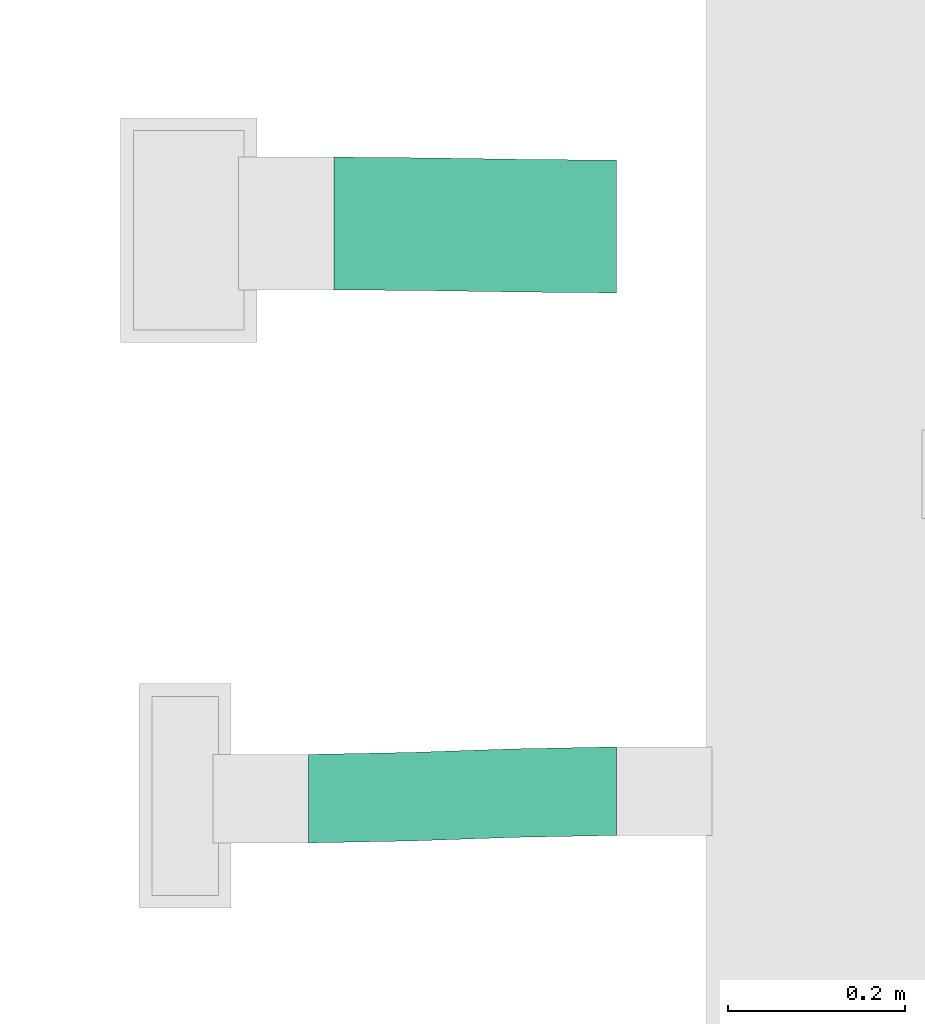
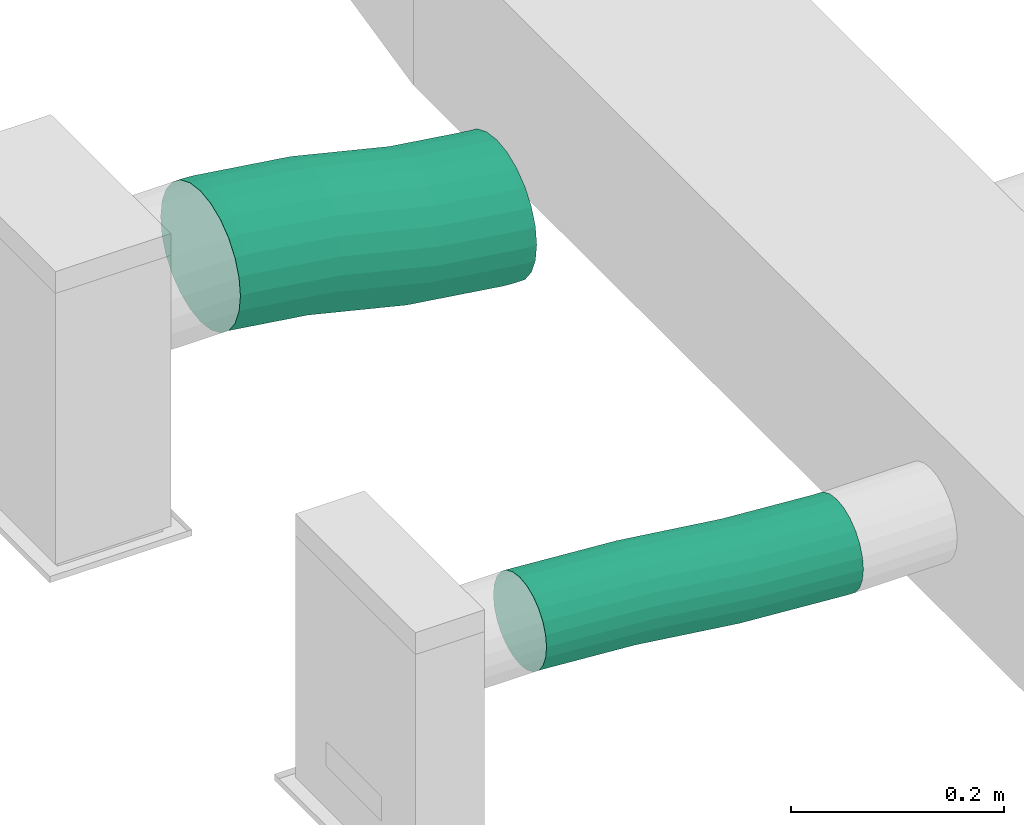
# One storey, part 54 of 60: 2 flow segments.
"""IFC2X3 building model written with IfcOpenShell, lengths in millimetres."""

from ifc_helpers import new_model, entity, si_unit, converted_unit, derived_unit, direction, frame, origin, place, context, subcontext, project, spatial, faceted_brep, type_object, element, save


model = new_model("IFC2X3")

# Units and contexts
model_context = context("Model", 3, precision=0.01, world=origin(), true_north=direction((6.123233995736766e-17, 1.0)))
body_context = subcontext(model_context, "Body", "Model", "MODEL_VIEW")
ifc_project = project(units=[si_unit("LENGTHUNIT", "METRE", prefix="MILLI"), converted_unit("PLANEANGLEUNIT", "DEGREE", entity("IfcPlaneAngleMeasure", 0.017453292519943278), si_unit("PLANEANGLEUNIT", "RADIAN"), dimensions=[0, 0, 0, 0, 0, 0, 0]), si_unit("AREAUNIT", "SQUARE_METRE"), derived_unit("THERMALTRANSMITTANCEUNIT", [(si_unit("MASSUNIT", "GRAM", prefix="KILO"), 1), (si_unit("THERMODYNAMICTEMPERATUREUNIT", "KELVIN"), -1), (si_unit("TIMEUNIT", "SECOND"), -3)])], contexts=[model_context])

# Site, building, storey
site_placement = place(None, origin())
site = spatial("IfcSite", under=ifc_project, at=site_placement, Name="Default", CompositionType="ELEMENT")
building_placement = place(site_placement, origin())
building = spatial("IfcBuilding", under=site, at=building_placement, Name="Praça Pedro II, 1301 - Centro (Sul), Teresina - PI, 64001-100", CompositionType="ELEMENT")
storey_placement = place(building_placement, frame((0.0, 0.0, 6040.0)))
storey = spatial("IfcBuildingStorey", under=building, at=storey_placement, Name="2PAV", CompositionType="ELEMENT", Elevation=6040.0)

# Flow segments
duct_segment_type = type_object("IfcDuctSegmentType", Name="Duto flexível redondo:Flexível - Redondo", PredefinedType="FLEXIBLESEGMENT")
flow_segment_1_placement = place(storey_placement, frame((9596.6017962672, -65559.13502330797, 2573.4047277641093)))
element("IfcFlowSegment", 1, at=flow_segment_1_placement, inside=storey, type_object=duct_segment_type, Name="Duto flexível redondo:Flexível - Redondo", ObjectType="Duto flexível redondo:Flexível - Redondo", context=body_context, shape_type="Brep", body=[
    faceted_brep([(0.0, 26.92660160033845, 74.65504816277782), (0.0, 15.00770490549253, 90.18805675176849), (0.0, 7.515173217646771, 108.2766283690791), (0.0, 4.9596101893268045, 127.68805675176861), (0.0, 7.515173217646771, 147.09948513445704), (0.0, 15.00770490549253, 165.18805675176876), (0.0, 26.92660160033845, 180.72106534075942), (0.0, 42.459610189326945, 192.639962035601), (0.0, 60.5481818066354, 200.13249372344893), (0.0, 79.95961018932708, 202.6880567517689), (0.0, 99.37103857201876, 200.13249372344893), (0.0, 117.45961018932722, 192.639962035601), (0.0, 132.99261877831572, 180.72106534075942), (0.0, 144.91151547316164, 165.18805675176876), (0.0, 152.40404716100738, 147.09948513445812), (0.0, 154.95961018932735, 127.68805675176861), (0.0, 152.40404716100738, 108.2766283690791), (0.0, 144.91151547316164, 90.18805675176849), (0.0, 132.99261877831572, 74.65504816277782), (0.0, 117.45961018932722, 62.73615146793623), (0.0, 99.37103857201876, 55.24361978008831), (0.0, 79.95961018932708, 52.68805675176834), (0.0, 60.5481818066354, 55.24361978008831), (0.0, 42.459610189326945, 62.73615146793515), (8.246375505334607, 152.40404716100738, 108.27662836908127), (6.989936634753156, 144.91151547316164, 90.18805675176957), (9.570279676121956, 154.95961018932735, 127.68805675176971), (5.88658729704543, 132.99261877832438, 74.65504816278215), (4.424365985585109, 99.37103857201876, 55.24361978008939), (4.165141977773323, 79.95961018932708, 52.68805675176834), (5.011518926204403, 117.45961018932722, 62.73615146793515), (4.677591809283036, 42.459610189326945, 62.73615146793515), (5.414343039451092, 26.92660160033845, 74.65504816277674), (4.251512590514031, 60.5481818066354, 55.24361978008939), (7.601277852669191, 7.515173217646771, 108.27662836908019), (8.902425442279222, 4.9596101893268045, 127.68805675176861), (6.411557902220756, 15.00770490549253, 90.18805675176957), (10.226329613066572, 7.515173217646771, 147.09948513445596), (11.482768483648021, 15.00770490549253, 165.1880567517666), (12.586117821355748, 26.926601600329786, 180.72106534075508), (13.461186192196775, 42.459610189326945, 192.639962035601), (14.048339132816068, 60.5481818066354, 200.13249372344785), (14.307563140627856, 79.95961018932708, 202.6880567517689), (14.221192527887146, 99.37103857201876, 200.13249372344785), (13.795113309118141, 117.45961018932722, 192.63996203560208), (13.058362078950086, 132.99261877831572, 180.72106534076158), (12.061147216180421, 144.91151547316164, 165.18805675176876), (10.871427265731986, 152.40404716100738, 147.09948513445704), (319.3093266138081, 4.150835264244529, 57.18384385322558), (319.3093266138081, 11.643366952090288, 39.095272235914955), (319.3093266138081, 23.56226364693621, 23.562263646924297), (319.3093266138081, 39.0952722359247, 11.643366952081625), (319.3093266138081, 57.18384385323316, 4.150835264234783), (319.3093266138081, 76.59527223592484, 1.5952722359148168), (319.3093266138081, 96.00670061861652, 4.150835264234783), (319.3093266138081, 114.09527223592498, 11.643366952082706), (319.3093266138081, 129.62828082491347, 23.562263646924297), (319.3093266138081, 141.5471775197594, 39.095272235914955), (319.3093266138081, 149.03970920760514, 57.18384385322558), (319.3093266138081, 151.5952722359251, 76.59527223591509), (319.3093266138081, 149.03970920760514, 96.00670061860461), (319.3093266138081, 141.5471775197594, 114.09527223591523), (319.3093266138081, 129.62828082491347, 129.6282808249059), (319.3093266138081, 114.09527223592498, 141.54717751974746), (319.3093266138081, 96.00670061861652, 149.0397092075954), (319.3093266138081, 76.59527223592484, 151.59527223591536), (319.3093266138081, 57.18384385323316, 149.0397092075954), (319.3093266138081, 39.0952722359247, 141.54717751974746), (319.3093266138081, 23.56226364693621, 129.6282808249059), (319.3093266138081, 11.643366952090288, 114.09527223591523), (319.3093266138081, 4.150835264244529, 96.00670061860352), (319.3093266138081, 1.5952722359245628, 76.59527223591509), (104.09011050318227, 151.5466482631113, 95.25567216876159), (100.72873381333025, 144.0729469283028, 77.45306919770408), (107.63197849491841, 154.08236983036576, 114.36577663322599), (97.77692069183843, 132.17058622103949, 62.17118569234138), (95.4358323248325, 116.65069235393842, 50.451456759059), (93.86501001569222, 98.57092044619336, 43.092562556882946), (93.17150270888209, 79.1633770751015, 40.595999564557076), (93.40257178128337, 59.75065424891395, 43.13190442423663), (94.54247025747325, 41.655696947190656, 50.52745941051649), (96.5135159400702, 26.111646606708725, 62.278669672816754), (102.36426751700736, 6.667442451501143, 95.40249801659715), (105.84525436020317, 4.0923790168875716, 114.51778193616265), (99.181385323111, 14.17780457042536, 77.58470965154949), (109.38712235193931, 6.628100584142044, 133.62788640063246), (112.74849904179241, 14.1018019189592, 151.43048937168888), (115.70031216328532, 26.004162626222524, 166.7123728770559), (118.04140053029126, 41.52405649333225, 178.43210181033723), (119.61222283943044, 59.60382840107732, 185.79099601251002), (120.30573014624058, 79.01137177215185, 188.28755900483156), (120.07466107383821, 98.42409459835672, 185.75165414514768), (118.93476259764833, 116.51905190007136, 178.35609915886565), (116.9637169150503, 132.0631022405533, 166.60488889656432), (114.2958475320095, 143.99694427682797, 151.29884891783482), (111.11296533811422, 151.5073063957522, 133.4810605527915), (213.46407225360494, 152.46250340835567, 89.76554705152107), (209.92220426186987, 149.92678184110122, 70.65544258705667), (206.56082757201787, 142.4530805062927, 52.85283961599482), (203.60901445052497, 130.5507197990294, 37.570956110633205), (201.26792608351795, 115.03082593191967, 25.851227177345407), (199.69710377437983, 96.95105402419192, 18.492332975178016), (199.0035964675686, 77.5435106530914, 15.995769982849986), (199.2346655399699, 58.13078782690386, 18.531674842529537), (200.37456401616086, 40.035830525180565, 25.927229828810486), (202.34560969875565, 24.491780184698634, 37.67844009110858), (205.01347908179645, 12.55793814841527, 52.98448006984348), (208.1963612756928, 5.047576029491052, 70.8022684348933), (211.6773481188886, 2.47251259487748, 89.91755235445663), (215.21921611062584, 5.008234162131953, 109.02765681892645), (218.58059280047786, 12.48193549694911, 126.83025978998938), (221.53240592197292, 24.384296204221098, 142.112143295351), (223.87349428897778, 39.904190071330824, 153.83187222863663), (225.44431659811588, 57.98396197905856, 161.1907664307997), (226.1378239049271, 77.39150535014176, 163.68732942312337), (225.90675483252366, 96.80422817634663, 161.1514245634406), (224.76685635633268, 114.89918547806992, 153.75586957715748), (222.79581067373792, 130.44323581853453, 142.00465931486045), (216.94505909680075, 149.88743997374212, 108.88083097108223), (220.1279412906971, 142.37707785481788, 126.69861933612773), (310.40690117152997, 151.5952722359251, 76.59527223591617), (309.08299700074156, 149.03970920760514, 57.18384385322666), (307.8265581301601, 141.5471775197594, 39.095272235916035), (306.72320879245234, 129.62828082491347, 23.56226364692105), (305.8481404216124, 114.09527223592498, 11.643366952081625), (305.260987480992, 96.00670061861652, 4.150835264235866), (305.00176347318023, 76.59527223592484, 1.5952722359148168), (305.08813408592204, 57.18384385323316, 4.150835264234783), (305.51421330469, 39.0952722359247, 11.643366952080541), (306.25096453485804, 23.56226364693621, 23.56226364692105), (307.24817939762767, 11.643366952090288, 39.095272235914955), (308.4378993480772, 4.150835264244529, 57.18384385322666), (309.73904693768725, 1.5952722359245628, 76.59527223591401), (311.0629511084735, 4.150835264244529, 96.00670061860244), (312.31938997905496, 11.643366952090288, 114.09527223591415), (313.42273931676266, 23.56226364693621, 129.62828082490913), (314.29780768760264, 39.0952722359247, 141.54717751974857), (314.884960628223, 57.18384385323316, 149.0397092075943), (315.14418463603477, 76.59527223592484, 151.59527223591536), (315.0578140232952, 96.00670061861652, 149.0397092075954), (314.6317348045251, 114.09527223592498, 141.54717751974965), (313.894983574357, 129.62828082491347, 129.6282808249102), (311.70804876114, 149.03970920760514, 96.00670061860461), (312.89776871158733, 141.5471775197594, 114.09527223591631)], [[[0, 1, 2, 3, 4, 5, 6, 7, 8, 9, 10, 11, 12, 13, 14, 15, 16, 17, 18, 19, 20, 21, 22, 23]], [[24, 25, 17, 16]], [[26, 24, 16, 15]], [[17, 25, 27, 18]], [[28, 29, 21, 20]], [[30, 28, 20, 19]], [[18, 27, 30, 19]], [[23, 31, 32, 0]], [[33, 31, 23, 22]], [[21, 29, 33, 22]], [[34, 35, 3, 2]], [[36, 34, 2, 1]], [[32, 36, 1, 0]], [[5, 4, 37, 38]], [[6, 5, 38, 39]], [[3, 35, 37, 4]], [[8, 7, 40, 41]], [[9, 8, 41, 42]], [[39, 40, 7, 6]], [[9, 42, 43, 10]], [[10, 43, 44, 11]], [[11, 44, 45, 12]], [[13, 46, 47, 14]], [[14, 47, 26, 15]], [[12, 45, 46, 13]], [[48, 49, 50, 51, 52, 53, 54, 55, 56, 57, 58, 59, 60, 61, 62, 63, 64, 65, 66, 67, 68, 69, 70, 71]], [[72, 73, 25, 24]], [[74, 72, 24, 26]], [[27, 25, 73, 75]], [[76, 77, 28, 30]], [[75, 76, 30, 27]], [[29, 28, 77, 78]], [[79, 80, 31, 33]], [[78, 79, 33, 29]], [[81, 32, 31, 80]], [[82, 83, 35, 34]], [[84, 82, 34, 36]], [[84, 36, 32, 81]], [[35, 83, 85, 37]], [[37, 85, 86, 38]], [[87, 39, 38, 86]], [[40, 88, 89, 41]], [[41, 89, 90, 42]], [[88, 40, 39, 87]], [[43, 42, 90, 91]], [[44, 43, 91, 92]], [[92, 93, 45, 44]], [[46, 45, 93, 94]], [[47, 46, 94, 95]], [[26, 47, 95, 74]], [[72, 74, 96, 97]], [[73, 72, 97, 98]], [[75, 73, 98, 99]], [[77, 76, 100, 101]], [[78, 77, 101, 102]], [[99, 100, 76, 75]], [[78, 102, 103, 79]], [[79, 103, 104, 80]], [[105, 81, 80, 104]], [[81, 105, 106, 84]], [[84, 106, 107, 82]], [[108, 83, 82, 107]], [[109, 110, 86, 85]], [[108, 109, 85, 83]], [[111, 87, 86, 110]], [[112, 113, 89, 88]], [[112, 88, 87, 111]], [[114, 90, 89, 113]], [[115, 116, 92, 91]], [[114, 115, 91, 90]], [[116, 117, 93, 92]], [[118, 96, 74, 95]], [[119, 118, 95, 94]], [[117, 119, 94, 93]], [[97, 96, 120, 121]], [[98, 97, 121, 122]], [[99, 98, 122, 123]], [[101, 100, 124, 125]], [[102, 101, 125, 126]], [[123, 124, 100, 99]], [[102, 126, 127, 103]], [[103, 127, 128, 104]], [[104, 128, 129, 105]], [[105, 129, 130, 106]], [[106, 130, 131, 107]], [[132, 108, 107, 131]], [[133, 134, 110, 109]], [[132, 133, 109, 108]], [[135, 111, 110, 134]], [[136, 137, 113, 112]], [[136, 112, 111, 135]], [[138, 114, 113, 137]], [[139, 140, 116, 115]], [[138, 139, 115, 114]], [[117, 116, 140, 141]], [[142, 120, 96, 118]], [[143, 142, 118, 119]], [[141, 143, 119, 117]], [[120, 59, 58, 121]], [[121, 58, 57, 122]], [[122, 57, 56, 123]], [[124, 55, 54, 125]], [[125, 54, 53, 126]], [[123, 56, 55, 124]], [[127, 126, 53, 52]], [[128, 127, 52, 51]], [[129, 128, 51, 50]], [[131, 130, 49, 48]], [[132, 131, 48, 71]], [[50, 49, 130, 129]], [[133, 132, 71, 70]], [[134, 133, 70, 69]], [[135, 134, 69, 68]], [[137, 136, 67, 66]], [[138, 137, 66, 65]], [[135, 68, 67, 136]], [[138, 65, 64, 139]], [[139, 64, 63, 140]], [[140, 63, 62, 141]], [[143, 61, 60, 142]], [[142, 60, 59, 120]], [[143, 141, 62, 61]]]),
])
flow_segment_2_placement = place(storey_placement, frame((9567.60542845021, -66180.76441159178, 2598.404727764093)))
element("IfcFlowSegment", 2, at=flow_segment_2_placement, inside=storey, type_object=duct_segment_type, Name="Duto flexível redondo:Flexível - Redondo", ObjectType="Duto flexível redondo:Flexível - Redondo", context=body_context, shape_type="Brep", body=[
    faceted_brep([(0.0, 8.29400204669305, 64.1423838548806), (0.0, 3.298980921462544, 76.201431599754), (0.0, 1.5952722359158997, 89.14238385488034), (0.0, 3.298980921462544, 102.08333611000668), (0.0, 8.29400204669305, 114.14238385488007), (0.0, 16.239933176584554, 124.4977229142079), (0.0, 26.595272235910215, 132.44365404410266), (0.0, 38.654319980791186, 137.43867516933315), (0.0, 51.59527223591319, 139.1423838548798), (0.0, 64.53622449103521, 137.43867516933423), (0.0, 76.59527223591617, 132.44365404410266), (0.0, 86.95061129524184, 124.4977229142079), (0.0, 94.89654242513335, 114.14238385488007), (0.0, 99.89156355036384, 102.08333611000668), (0.0, 101.59527223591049, 89.14238385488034), (0.0, 99.89156355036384, 76.201431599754), (0.0, 94.89654242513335, 64.1423838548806), (0.0, 86.95061129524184, 53.78704479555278), (0.0, 76.59527223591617, 45.84111366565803), (0.0, 64.53622449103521, 40.84609254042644), (0.0, 51.59527223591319, 39.142383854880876), (0.0, 38.654319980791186, 40.84609254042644), (0.0, 26.595272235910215, 45.84111366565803), (0.0, 16.239933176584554, 53.78704479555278), (3.1442877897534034, 99.89156355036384, 76.201431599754), (2.669881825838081, 94.89654242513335, 64.14238385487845), (3.6886774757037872, 101.59527223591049, 89.14238385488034), (2.297789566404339, 86.95061129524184, 53.78704479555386), (1.9532754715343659, 64.53622449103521, 40.84609254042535), (2.004331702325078, 51.59527223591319, 39.142383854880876), (2.053368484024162, 76.59527223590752, 45.84111366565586), (2.535910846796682, 26.595272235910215, 45.841113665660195), (2.9802075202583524, 16.239933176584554, 53.78704479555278), (2.203057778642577, 38.654319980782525, 40.84609254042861), (4.076488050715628, 3.298980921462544, 76.201431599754), (4.653762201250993, 1.5952722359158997, 89.14238385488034), (3.5056697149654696, 8.29400204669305, 64.14238385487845), (5.1981518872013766, 3.298980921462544, 102.08333611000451), (5.672557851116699, 8.29400204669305, 114.14238385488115), (6.0446501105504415, 16.239933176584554, 124.49772291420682), (6.289071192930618, 26.59527223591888, 132.44365404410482), (6.389164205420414, 38.654319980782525, 137.43867516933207), (6.338107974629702, 51.59527223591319, 139.1423838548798), (6.1393818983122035, 64.53622449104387, 137.43867516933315), (5.806528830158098, 76.59527223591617, 132.4436540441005), (5.362232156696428, 86.95061129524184, 124.4977229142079), (4.836769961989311, 94.89654242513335, 114.14238385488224), (4.265951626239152, 99.89156355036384, 102.08333611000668), (348.3056944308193, 47.01565236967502, 3.298980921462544), (348.3056944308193, 59.95660462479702, 1.5952722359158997), (348.3056944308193, 72.89755687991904, 3.298980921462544), (348.3056944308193, 84.95660462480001, 8.294002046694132), (348.3056944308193, 95.31194368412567, 16.239933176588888), (348.3056944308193, 103.25787481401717, 26.595272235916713), (348.3056944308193, 108.25289593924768, 38.6543199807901), (348.3056944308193, 109.95660462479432, 51.59527223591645), (348.3056944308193, 108.25289593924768, 64.53622449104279), (348.3056944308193, 103.25787481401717, 76.59527223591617), (348.3056944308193, 95.31194368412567, 86.950611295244), (348.3056944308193, 84.95660462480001, 94.89654242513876), (348.3056944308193, 72.89755687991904, 99.89156355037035), (348.3056944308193, 59.95660462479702, 101.595272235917), (348.3056944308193, 47.01565236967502, 99.89156355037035), (348.3056944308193, 34.956604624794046, 94.89654242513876), (348.3056944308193, 24.601265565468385, 86.950611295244), (348.3056944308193, 16.65533443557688, 76.59527223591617), (348.3056944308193, 11.660313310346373, 64.53622449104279), (348.3056944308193, 9.956604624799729, 51.59527223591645), (348.3056944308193, 11.660313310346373, 38.6543199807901), (348.3056944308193, 16.65533443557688, 26.595272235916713), (348.3056944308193, 24.601265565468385, 16.239933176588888), (348.3056944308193, 34.956604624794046, 8.294002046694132), (113.40373756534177, 102.02396136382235, 66.62575932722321), (112.08481690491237, 97.0126074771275, 54.64005491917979), (114.9172236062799, 103.7464121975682, 79.48254873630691), (111.05034388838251, 89.05386602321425, 44.34224146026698), (110.37081614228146, 78.69011207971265, 36.43409791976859), (110.09254235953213, 66.62761835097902, 31.454551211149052), (110.2344864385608, 53.68842385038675, 29.742949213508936), (110.78697512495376, 40.754313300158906, 31.415934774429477), (111.71235722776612, 28.706724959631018, 36.35949669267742), (112.9475694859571, 18.36668206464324, 44.236739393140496), (115.99539592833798, 5.463472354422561, 66.48164082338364), (117.6003057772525, 3.7796379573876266, 79.33334628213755), (114.40843422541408, 10.43884145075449, 54.51084180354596), (119.11379181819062, 5.502088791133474, 92.190135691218), (120.43271247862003, 10.513442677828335, 104.175840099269), (121.46718549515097, 18.472184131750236, 114.47365355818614), (122.14671324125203, 28.83593807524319, 122.38179709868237), (122.42498702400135, 40.89843180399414, 127.36134380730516), (122.28304294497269, 53.837626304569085, 129.07294580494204), (121.73055425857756, 66.77173685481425, 127.39996024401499), (120.80517215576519, 78.81932519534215, 122.4563983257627), (119.56995989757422, 89.15936809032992, 114.5791556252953), (118.10909515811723, 97.08720870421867, 104.30505321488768), (116.52213345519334, 102.06257780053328, 92.33425419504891), (230.70538865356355, 107.77223890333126, 61.404309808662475), (229.19190261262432, 106.0497880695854, 48.54752039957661), (227.872981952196, 101.03843418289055, 36.56181599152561), (226.83850893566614, 93.07969272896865, 26.264002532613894), (226.158981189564, 82.7159387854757, 18.35585899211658), (225.88070740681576, 70.6534450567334, 13.376312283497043), (226.02265148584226, 57.71425055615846, 11.664710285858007), (226.57514017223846, 44.78014000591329, 13.337695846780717), (227.50052227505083, 32.73255166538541, 18.281257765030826), (228.73573453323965, 22.392508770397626, 26.158500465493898), (230.1965992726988, 14.464668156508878, 36.4326028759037), (231.7835609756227, 9.489299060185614, 48.40340189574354), (233.38847082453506, 7.805464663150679, 61.25510735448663), (234.90195686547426, 9.527915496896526, 74.11189676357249), (236.22087752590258, 14.539269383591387, 86.09760117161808), (237.25535054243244, 22.498010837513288, 96.39541463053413), (237.93487828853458, 32.861764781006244, 104.30355817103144), (238.21315207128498, 44.924258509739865, 109.28310487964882), (238.07120799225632, 57.863453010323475, 110.99470687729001), (237.51871930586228, 70.79756356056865, 109.3217213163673), (236.5933372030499, 82.84515190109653, 104.37815939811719), (235.35812494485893, 93.1851947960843, 96.5009166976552), (232.31029850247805, 106.08840450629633, 74.25601526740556), (233.89726020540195, 101.11303540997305, 86.2268142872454), (343.6519322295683, 109.95660462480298, 51.59527223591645), (343.10754254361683, 108.25289593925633, 38.65431998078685), (342.6331365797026, 103.25787481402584, 26.595272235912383), (342.26104432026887, 95.31194368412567, 16.239933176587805), (342.01662323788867, 84.95660462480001, 8.294002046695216), (341.91653022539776, 72.89755687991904, 3.298980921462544), (341.96758645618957, 59.95660462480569, 1.5952722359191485), (342.16631253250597, 47.01565236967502, 3.2989809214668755), (342.4991656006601, 34.956604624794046, 8.294002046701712), (342.94346227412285, 24.601265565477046, 16.239933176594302), (343.4689244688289, 16.65533443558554, 26.59527223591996), (344.039742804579, 11.660313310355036, 38.654319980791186), (344.6170169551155, 9.956604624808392, 51.595272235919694), (345.1614066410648, 11.660313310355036, 64.53622449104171), (345.6358126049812, 16.65533443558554, 76.59527223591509), (346.00790486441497, 24.601265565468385, 86.95061129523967), (346.2523259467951, 34.956604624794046, 94.89654242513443), (346.35241895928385, 47.01565236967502, 99.89156355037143), (346.3013627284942, 59.95660462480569, 101.59527223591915), (346.10263665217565, 72.89755687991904, 99.89156355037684), (345.7697835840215, 84.95660462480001, 94.89654242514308), (345.3254869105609, 95.31194368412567, 86.9506112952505), (344.2292063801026, 108.25289593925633, 64.5362244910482), (344.8000247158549, 103.25787481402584, 76.59527223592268)], [[[0, 1, 2, 3, 4, 5, 6, 7, 8, 9, 10, 11, 12, 13, 14, 15, 16, 17, 18, 19, 20, 21, 22, 23]], [[24, 25, 16, 15]], [[26, 24, 15, 14]], [[16, 25, 27, 17]], [[28, 29, 20, 19]], [[30, 28, 19, 18]], [[17, 27, 30, 18]], [[22, 31, 32, 23]], [[33, 31, 22, 21]], [[20, 29, 33, 21]], [[34, 35, 2, 1]], [[36, 34, 1, 0]], [[32, 36, 0, 23]], [[4, 3, 37, 38]], [[5, 4, 38, 39]], [[2, 35, 37, 3]], [[7, 6, 40, 41]], [[7, 41, 42, 8]], [[39, 40, 6, 5]], [[8, 42, 43, 9]], [[9, 43, 44, 10]], [[10, 44, 45, 11]], [[12, 46, 47, 13]], [[13, 47, 26, 14]], [[11, 45, 46, 12]], [[48, 49, 50, 51, 52, 53, 54, 55, 56, 57, 58, 59, 60, 61, 62, 63, 64, 65, 66, 67, 68, 69, 70, 71]], [[72, 73, 25, 24]], [[74, 72, 24, 26]], [[27, 25, 73, 75]], [[75, 76, 30, 27]], [[30, 76, 77, 28]], [[78, 29, 28, 77]], [[79, 80, 31, 33]], [[78, 79, 33, 29]], [[81, 32, 31, 80]], [[82, 83, 35, 34]], [[84, 82, 34, 36]], [[84, 36, 32, 81]], [[35, 83, 85, 37]], [[37, 85, 86, 38]], [[87, 39, 38, 86]], [[40, 88, 89, 41]], [[42, 41, 89, 90]], [[88, 40, 39, 87]], [[43, 42, 90, 91]], [[44, 43, 91, 92]], [[92, 93, 45, 44]], [[46, 45, 93, 94]], [[47, 46, 94, 95]], [[26, 47, 95, 74]], [[72, 74, 96, 97]], [[73, 72, 97, 98]], [[75, 73, 98, 99]], [[77, 76, 100, 101]], [[77, 101, 102, 78]], [[99, 100, 76, 75]], [[78, 102, 103, 79]], [[79, 103, 104, 80]], [[105, 81, 80, 104]], [[81, 105, 106, 84]], [[84, 106, 107, 82]], [[108, 83, 82, 107]], [[109, 110, 86, 85]], [[108, 109, 85, 83]], [[111, 87, 86, 110]], [[112, 88, 87, 111]], [[89, 88, 112, 113]], [[113, 114, 90, 89]], [[115, 116, 92, 91]], [[114, 115, 91, 90]], [[116, 117, 93, 92]], [[118, 96, 74, 95]], [[119, 118, 95, 94]], [[117, 119, 94, 93]], [[97, 96, 120, 121]], [[98, 97, 121, 122]], [[99, 98, 122, 123]], [[101, 100, 124, 125]], [[101, 125, 126, 102]], [[123, 124, 100, 99]], [[102, 126, 127, 103]], [[103, 127, 128, 104]], [[104, 128, 129, 105]], [[105, 129, 130, 106]], [[106, 130, 131, 107]], [[132, 108, 107, 131]], [[133, 134, 110, 109]], [[132, 133, 109, 108]], [[135, 111, 110, 134]], [[136, 112, 111, 135]], [[113, 112, 136, 137]], [[137, 138, 114, 113]], [[139, 140, 116, 115]], [[138, 139, 115, 114]], [[117, 116, 140, 141]], [[142, 120, 96, 118]], [[143, 142, 118, 119]], [[141, 143, 119, 117]], [[120, 55, 54, 121]], [[121, 54, 53, 122]], [[122, 53, 52, 123]], [[124, 51, 50, 125]], [[126, 125, 50, 49]], [[123, 52, 51, 124]], [[127, 126, 49, 48]], [[128, 127, 48, 71]], [[129, 128, 71, 70]], [[131, 130, 69, 68]], [[132, 131, 68, 67]], [[70, 69, 130, 129]], [[133, 132, 67, 66]], [[134, 133, 66, 65]], [[135, 134, 65, 64]], [[137, 136, 63, 62]], [[137, 62, 61, 138]], [[135, 64, 63, 136]], [[138, 61, 60, 139]], [[139, 60, 59, 140]], [[140, 59, 58, 141]], [[143, 57, 56, 142]], [[142, 56, 55, 120]], [[143, 141, 58, 57]]]),
])

save(model, "model.ifc")
